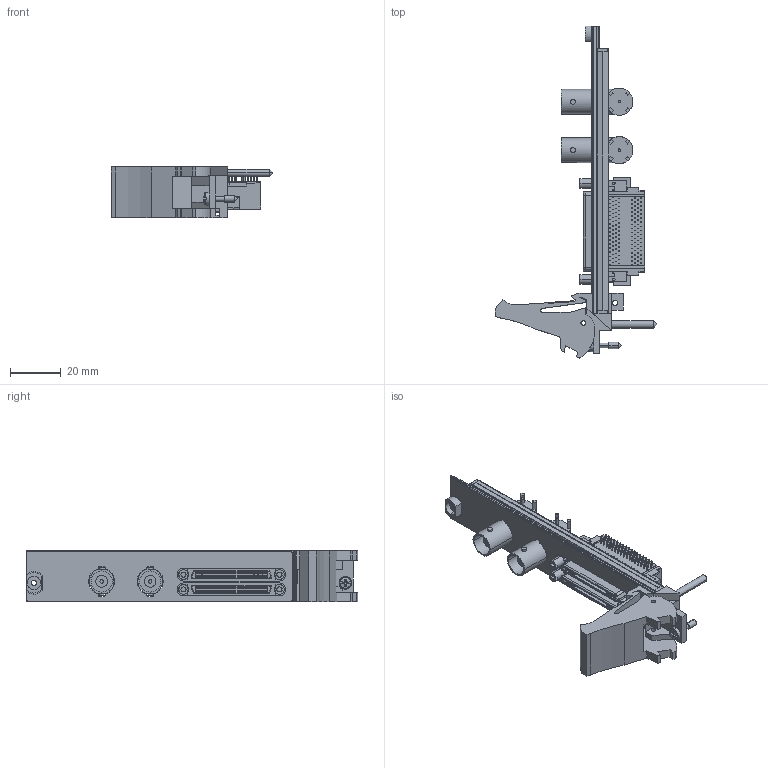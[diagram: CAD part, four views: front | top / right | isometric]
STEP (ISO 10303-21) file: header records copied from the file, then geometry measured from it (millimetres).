
FILE_DESCRIPTION((''),'2;1');
FILE_NAME('CU_PXIE-2515','2009-10-15T',('jjorden'),(''),'PRO/ENGINEER BY PARAMETRIC TECHNOLOGY CORPORATION, 2006080','PRO/ENGINEER BY PARAMETRIC TECHNOLOGY CORPORATION, 2006080','');
FILE_SCHEMA(('CONFIG_CONTROL_DESIGN'));
Length unit declared in the file: inch
Products named in the file (1): CU_PXIE-2515
Bounding box: 63.53 x 130.5 x 20.31 mm (x, y, z)
Volume: 20753.9 mm3; surface area: 25392.9 mm2
Topology: 5 solids, 5 shells, 2928 faces, 8311 edges, 5415 vertices
Faces by surface type: plane 2401, cylinder 485, cone 30, sphere 10, torus 2
Entity records: 94821 total; most frequent: CARTESIAN_POINT 17292, ORIENTED_EDGE 16618, DIRECTION 15208, EDGE_CURVE 8309, VECTOR 7188, LINE 7188, VERTEX_POINT 5415, AXIS2_PLACEMENT_3D 4010
